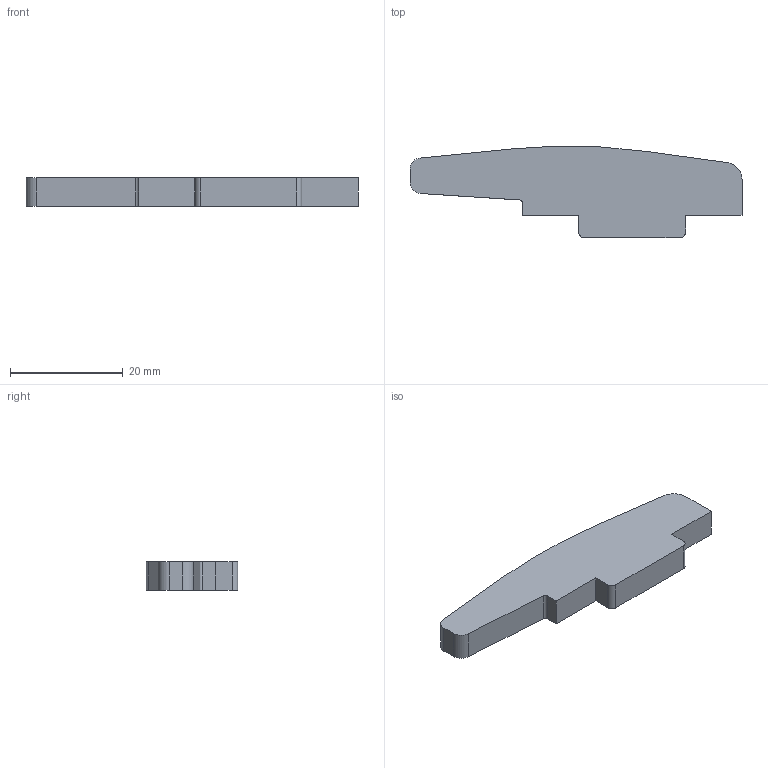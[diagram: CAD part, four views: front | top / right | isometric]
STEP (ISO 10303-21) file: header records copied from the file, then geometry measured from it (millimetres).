
FILE_DESCRIPTION((''),'2;1');
FILE_NAME('288097','2022-12-13T14:10:50',('vmorco'),(''),'CREO PARAMETRIC BY PTC INC, 2020454','CREO PARAMETRIC BY PTC INC, 2020454','');
FILE_SCHEMA(('AUTOMOTIVE_DESIGN { 1 0 10303 214 1 1 1 1 }'));
Length unit declared in the file: millimetre
Products named in the file (1): 288097
Bounding box: 59 x 16.29 x 5 mm (x, y, z)
Volume: 3321.3 mm3; surface area: 2031.9 mm2
Topology: 1 solids, 1 shells, 20 faces, 54 edges, 36 vertices
Faces by surface type: plane 13, cylinder 7
Entity records: 703 total; most frequent: CARTESIAN_POINT 112, DIRECTION 108, ORIENTED_EDGE 108, EDGE_CURVE 54, VECTOR 40, LINE 40, VERTEX_POINT 36, AXIS2_PLACEMENT_3D 34
